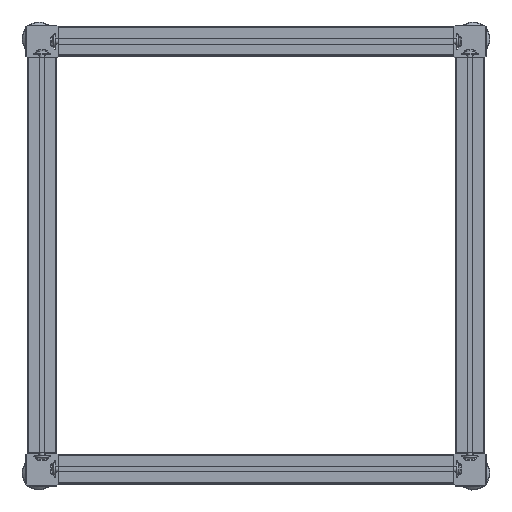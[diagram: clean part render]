
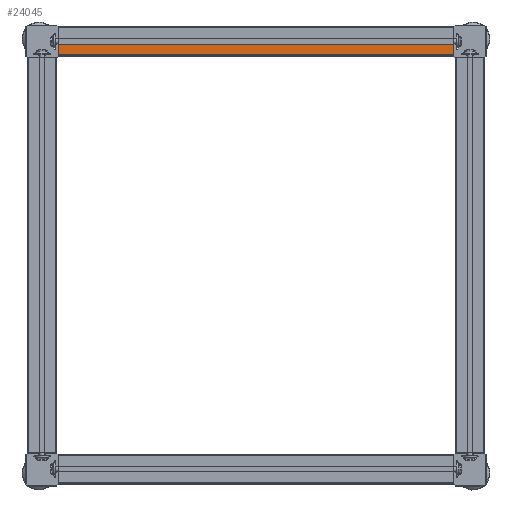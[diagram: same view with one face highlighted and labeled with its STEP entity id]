
A CAD part, top view. The second image highlights one B-rep face of the part: STEP entity #24045.
In plain terms, the highlighted planar face has unit normal (0, 0, 1) as drawn and (0, 1, 0) by its records, which use the part's own axes.
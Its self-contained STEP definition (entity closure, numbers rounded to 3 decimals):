
#703=PLANE('',#26147);
#1679=LINE('',#36097,#3699);
#1708=LINE('',#36191,#3728);
#1784=LINE('',#36416,#3804);
#1785=LINE('',#36418,#3805);
#3699=VECTOR('',#28755,1000.);
#3728=VECTOR('',#28804,1000.);
#3804=VECTOR('',#28984,1000.);
#3805=VECTOR('',#28985,1000.);
#5919=ORIENTED_EDGE('',*,*,#13128,.T.);
#5920=ORIENTED_EDGE('',*,*,#13092,.F.);
#5921=ORIENTED_EDGE('',*,*,#13228,.T.);
#5922=ORIENTED_EDGE('',*,*,#13229,.T.);
#13092=EDGE_CURVE('',#16777,#16778,#1679,.T.);
#13128=EDGE_CURVE('',#16811,#16778,#1708,.T.);
#13228=EDGE_CURVE('',#16777,#16885,#1784,.T.);
#13229=EDGE_CURVE('',#16885,#16811,#1785,.T.);
#16777=VERTEX_POINT('',#36096);
#16778=VERTEX_POINT('',#36098);
#16811=VERTEX_POINT('',#36192);
#16885=VERTEX_POINT('',#36417);
#20378=EDGE_LOOP('',(#5919,#5920,#5921,#5922));
#21912=FACE_BOUND('',#20378,.T.);
#24045=ADVANCED_FACE('',(#21912),#703,.T.);
#26147=AXIS2_PLACEMENT_3D('',#36415,#28982,#28983);
#28755=DIRECTION('',(0.,0.,1.));
#28804=DIRECTION('',(1.,0.,0.));
#28982=DIRECTION('',(0.,1.,0.));
#28983=DIRECTION('',(1.,0.,0.));
#28984=DIRECTION('',(-1.,0.,0.));
#28985=DIRECTION('',(0.,0.,1.));
#36096=CARTESIAN_POINT('',(39.,40.,0.));
#36097=CARTESIAN_POINT('',(39.,40.,-1.));
#36098=CARTESIAN_POINT('',(39.,40.,550.));
#36191=CARTESIAN_POINT('',(9.5,40.,550.));
#36192=CARTESIAN_POINT('',(24.,40.,550.));
#36415=CARTESIAN_POINT('',(24.,40.,-1.));
#36416=CARTESIAN_POINT('',(9.5,40.,0.));
#36417=CARTESIAN_POINT('',(24.,40.,0.));
#36418=CARTESIAN_POINT('',(24.,40.,-1.));
